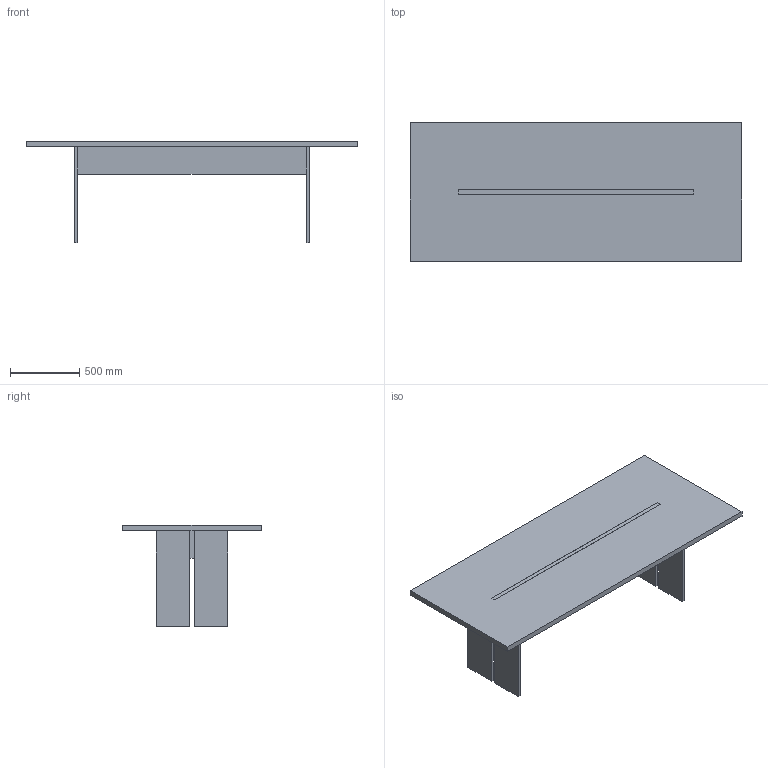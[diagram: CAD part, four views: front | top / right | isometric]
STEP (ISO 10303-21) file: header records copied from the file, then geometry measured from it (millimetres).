
FILE_DESCRIPTION(/* description */ (''),/* implementation_level */ '2;1');
FILE_NAME(/* name */ 'LLT_WOOD_240x100',/* time_stamp */ '2016-06-09T11:57:43+02:00',/* author */ (''),/* organization */ (''),/* preprocessor_version */ 'ST-DEVELOPER v10',/* originating_system */ '',/* authorisation */ '');
FILE_SCHEMA (('CONFIG_CONTROL_DESIGN'));
Length unit declared in the file: millimetre
Products named in the file (1): 1
Bounding box: 2400 x 1000 x 735 mm (x, y, z)
Volume: 119114490 mm3; surface area: 7543024 mm2
Topology: 6 solids, 6 shells, 40 faces, 84 edges, 56 vertices
Faces by surface type: plane 40
Entity records: 1004 total; most frequent: CARTESIAN_POINT 266, ORIENTED_EDGE 168, EDGE_CURVE 84, B_SPLINE_CURVE_WITH_KNOTS 84, VERTEX_POINT 56, DIRECTION 44, EDGE_LOOP 42, AXIS2_PLACEMENT_3D 42
